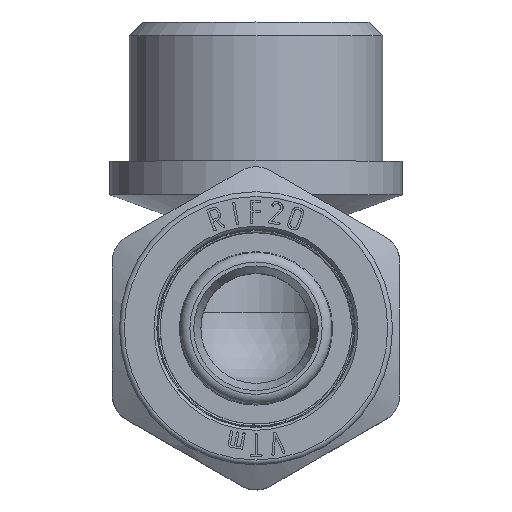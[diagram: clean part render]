
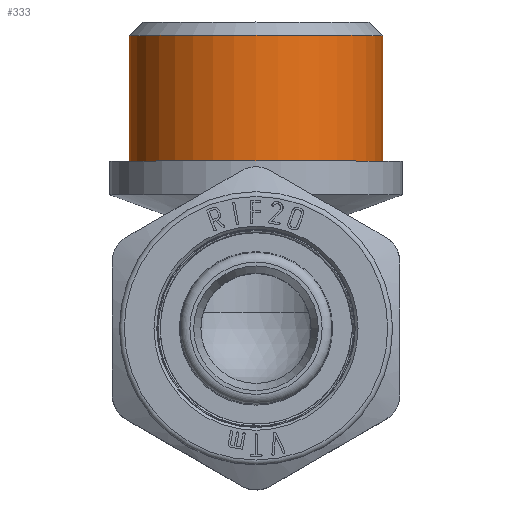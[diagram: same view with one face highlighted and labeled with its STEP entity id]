
A CAD part, top view. The second image highlights one B-rep face of the part: STEP entity #333.
In plain terms, the highlighted cylindrical face has radius 13.22 mm (diameter 26.441 mm), a full revolution.
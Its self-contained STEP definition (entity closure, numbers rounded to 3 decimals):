
#333=ADVANCED_FACE('',(#2537,#2539),#2541,.T.);
#2537=FACE_OUTER_BOUND('',#2538,.T.);
#2538=EDGE_LOOP('',(#5653));
#2539=FACE_OUTER_BOUND('',#2540,.T.);
#2540=EDGE_LOOP('',(#5654));
#2541=CYLINDRICAL_SURFACE('',#2542,13.221);
#2542=AXIS2_PLACEMENT_3D('',#2543,#2544,#2545);
#2543=CARTESIAN_POINT('',(0.,17.5,0.));
#2544=DIRECTION('',(0.,1.,0.));
#2545=DIRECTION('',(-1.,0.,0.));
#5653=ORIENTED_EDGE('',*,*,#7562,.F.);
#5654=ORIENTED_EDGE('',*,*,#7416,.F.);
#7416=EDGE_CURVE('',#9125,#9125,#9126,.F.);
#7562=EDGE_CURVE('',#9412,#9412,#9413,.T.);
#9125=VERTEX_POINT('',#14720);
#9126=CIRCLE('',#14721,13.221);
#9412=VERTEX_POINT('',#15306);
#9413=CIRCLE('',#15307,13.221);
#14720=CARTESIAN_POINT('',(-13.221,17.5,0.));
#14721=AXIS2_PLACEMENT_3D('',#14722,#14723,#14724);
#14722=CARTESIAN_POINT('',(0.,17.5,0.));
#14723=DIRECTION('',(0.,1.,0.));
#14724=DIRECTION('',(-1.,0.,0.));
#15306=CARTESIAN_POINT('',(-13.221,30.6,0.));
#15307=AXIS2_PLACEMENT_3D('',#15308,#15309,#15310);
#15308=CARTESIAN_POINT('',(0.,30.6,0.));
#15309=DIRECTION('',(0.,1.,0.));
#15310=DIRECTION('',(-1.,0.,0.));
